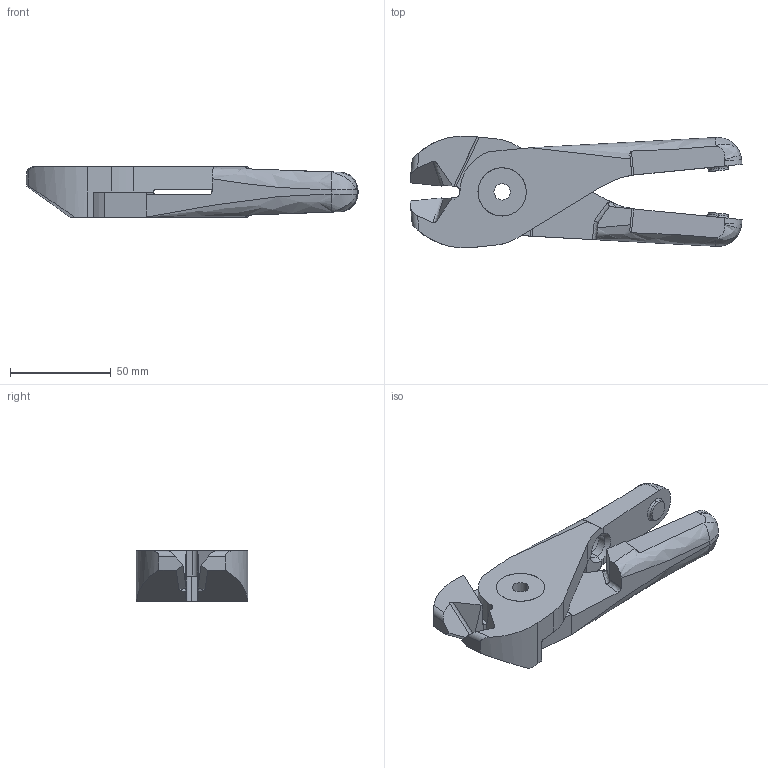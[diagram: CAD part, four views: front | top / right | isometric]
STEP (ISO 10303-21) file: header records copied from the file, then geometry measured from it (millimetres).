
FILE_DESCRIPTION (( 'STEP AP214' ), '1' );
FILE_NAME ('N50BBB.STEP', '2019-11-29T02:48:11', ( '微软用户' ), ( '微软中国' ), 'SwSTEP 2.0', 'SolidWorks 2016', '' );
FILE_SCHEMA (( 'AUTOMOTIVE_DESIGN' ));
Length unit declared in the file: millimetre
Products named in the file (4): BS; N50BBB; BR2; BR1
Assembly tree (3 placements, depth 2):
  N50BBB
    BS
    BR1
    BR2
Bounding box: 165.01 x 55.6 x 25 mm (x, y, z)
Volume: 121137.5 mm3; surface area: 33077.2 mm2
Topology: 3 solids, 3 shells, 152 faces, 404 edges, 250 vertices
Faces by surface type: plane 64, bspline 54, cylinder 24, cone 8, torus 2
Entity records: 7054 total; most frequent: CARTESIAN_POINT 3668, ORIENTED_EDGE 788, DIRECTION 522, EDGE_CURVE 394, VERTEX_POINT 250, LINE 210, VECTOR 210, EDGE_LOOP 160
